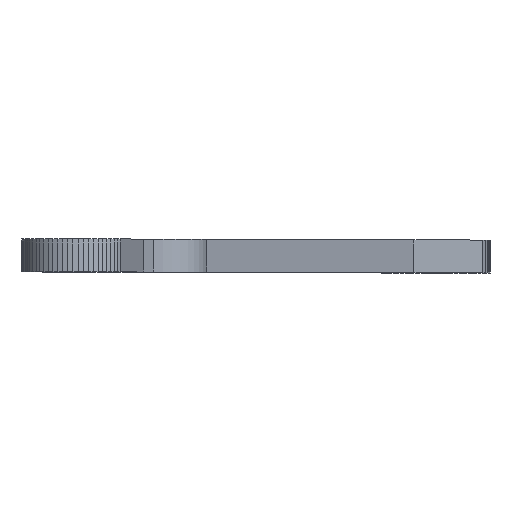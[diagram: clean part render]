
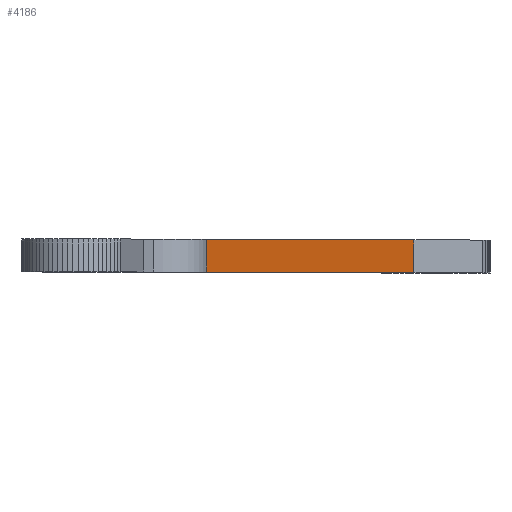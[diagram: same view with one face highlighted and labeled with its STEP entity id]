
A CAD part, top view. The second image highlights one B-rep face of the part: STEP entity #4186.
In plain terms, the highlighted planar face has unit normal (0.866, 0, 0.5).
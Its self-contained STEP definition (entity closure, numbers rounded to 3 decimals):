
#72 = PLANE('',#73);
#73 = AXIS2_PLACEMENT_3D('',#74,#75,#76);
#74 = CARTESIAN_POINT('',(27.5,8.,-47.631));
#75 = DIRECTION('',(0.,-1.,0.));
#76 = DIRECTION('',(0.5,0.,-0.866));
#126 = PLANE('',#127);
#127 = AXIS2_PLACEMENT_3D('',#128,#129,#130);
#128 = CARTESIAN_POINT('',(27.5,13.,-47.631));
#129 = DIRECTION('',(0.,-1.,0.));
#130 = DIRECTION('',(0.5,0.,-0.866));
#2169 = VERTEX_POINT('',#2170);
#2170 = CARTESIAN_POINT('',(51.464,13.,-81.138));
#2184 = PLANE('',#2185);
#2185 = AXIS2_PLACEMENT_3D('',#2186,#2187,#2188);
#2186 = CARTESIAN_POINT('',(61.928,13.,-91.263));
#2187 = DIRECTION('',(-0.695,0.,
    -0.719));
#2188 = DIRECTION('',(-0.719,0.,0.695
    ));
#2196 = EDGE_CURVE('',#2169,#2197,#2199,.T.);
#2197 = VERTEX_POINT('',#2198);
#2198 = CARTESIAN_POINT('',(18.928,13.,-24.785));
#2199 = SURFACE_CURVE('',#2200,(#2204,#2211),.PCURVE_S1.);
#2200 = LINE('',#2201,#2202);
#2201 = CARTESIAN_POINT('',(51.464,13.,-81.138));
#2202 = VECTOR('',#2203,1.);
#2203 = DIRECTION('',(-0.5,0.,0.866));
#2204 = PCURVE('',#126,#2205);
#2205 = DEFINITIONAL_REPRESENTATION('',(#2206),#2210);
#2206 = LINE('',#2207,#2208);
#2207 = CARTESIAN_POINT('',(41.,4.));
#2208 = VECTOR('',#2209,1.);
#2209 = DIRECTION('',(-1.,0.));
#2210 = ( GEOMETRIC_REPRESENTATION_CONTEXT(2) 
PARAMETRIC_REPRESENTATION_CONTEXT() REPRESENTATION_CONTEXT('2D SPACE',''
  ) );
#2211 = PCURVE('',#2212,#2217);
#2212 = PLANE('',#2213);
#2213 = AXIS2_PLACEMENT_3D('',#2214,#2215,#2216);
#2214 = CARTESIAN_POINT('',(51.464,13.,-81.138));
#2215 = DIRECTION('',(-0.866,0.,-0.5));
#2216 = DIRECTION('',(-0.5,0.,0.866));
#2217 = DEFINITIONAL_REPRESENTATION('',(#2218),#2222);
#2218 = LINE('',#2219,#2220);
#2219 = CARTESIAN_POINT('',(0.,0.));
#2220 = VECTOR('',#2221,1.);
#2221 = DIRECTION('',(1.,0.));
#2222 = ( GEOMETRIC_REPRESENTATION_CONTEXT(2) 
PARAMETRIC_REPRESENTATION_CONTEXT() REPRESENTATION_CONTEXT('2D SPACE',''
  ) );
#2241 = CYLINDRICAL_SURFACE('',#2242,8.);
#2242 = AXIS2_PLACEMENT_3D('',#2243,#2244,#2245);
#2243 = CARTESIAN_POINT('',(12.,13.,-20.785));
#2244 = DIRECTION('',(0.,1.,0.));
#2245 = DIRECTION('',(0.5,0.,-0.866));
#3928 = VERTEX_POINT('',#3929);
#3929 = CARTESIAN_POINT('',(51.464,8.,-81.138));
#3950 = EDGE_CURVE('',#3928,#3951,#3953,.T.);
#3951 = VERTEX_POINT('',#3952);
#3952 = CARTESIAN_POINT('',(18.928,8.,-24.785));
#3953 = SURFACE_CURVE('',#3954,(#3958,#3965),.PCURVE_S1.);
#3954 = LINE('',#3955,#3956);
#3955 = CARTESIAN_POINT('',(51.464,8.,-81.138));
#3956 = VECTOR('',#3957,1.);
#3957 = DIRECTION('',(-0.5,0.,0.866));
#3958 = PCURVE('',#72,#3959);
#3959 = DEFINITIONAL_REPRESENTATION('',(#3960),#3964);
#3960 = LINE('',#3961,#3962);
#3961 = CARTESIAN_POINT('',(41.,4.));
#3962 = VECTOR('',#3963,1.);
#3963 = DIRECTION('',(-1.,0.));
#3964 = ( GEOMETRIC_REPRESENTATION_CONTEXT(2) 
PARAMETRIC_REPRESENTATION_CONTEXT() REPRESENTATION_CONTEXT('2D SPACE',''
  ) );
#3965 = PCURVE('',#2212,#3966);
#3966 = DEFINITIONAL_REPRESENTATION('',(#3967),#3971);
#3967 = LINE('',#3968,#3969);
#3968 = CARTESIAN_POINT('',(0.,-5.));
#3969 = VECTOR('',#3970,1.);
#3970 = DIRECTION('',(1.,0.));
#3971 = ( GEOMETRIC_REPRESENTATION_CONTEXT(2) 
PARAMETRIC_REPRESENTATION_CONTEXT() REPRESENTATION_CONTEXT('2D SPACE',''
  ) );
#4166 = EDGE_CURVE('',#3951,#2197,#4167,.T.);
#4167 = SURFACE_CURVE('',#4168,(#4172,#4178),.PCURVE_S1.);
#4168 = LINE('',#4169,#4170);
#4169 = CARTESIAN_POINT('',(18.928,13.,-24.785));
#4170 = VECTOR('',#4171,1.);
#4171 = DIRECTION('',(0.,1.,0.));
#4172 = PCURVE('',#2241,#4173);
#4173 = DEFINITIONAL_REPRESENTATION('',(#4174),#4177);
#4174 = B_SPLINE_CURVE_WITH_KNOTS('',1,(#4175,#4176),.UNSPECIFIED.,.F.,
  .F.,(2,2),(-5.,0.),.PIECEWISE_BEZIER_KNOTS.);
#4175 = CARTESIAN_POINT('',(5.76,-5.));
#4176 = CARTESIAN_POINT('',(5.76,0.));
#4177 = ( GEOMETRIC_REPRESENTATION_CONTEXT(2) 
PARAMETRIC_REPRESENTATION_CONTEXT() REPRESENTATION_CONTEXT('2D SPACE',''
  ) );
#4178 = PCURVE('',#2212,#4179);
#4179 = DEFINITIONAL_REPRESENTATION('',(#4180),#4184);
#4180 = LINE('',#4181,#4182);
#4181 = CARTESIAN_POINT('',(65.072,0.));
#4182 = VECTOR('',#4183,1.);
#4183 = DIRECTION('',(0.,1.));
#4184 = ( GEOMETRIC_REPRESENTATION_CONTEXT(2) 
PARAMETRIC_REPRESENTATION_CONTEXT() REPRESENTATION_CONTEXT('2D SPACE',''
  ) );
#4186 = ADVANCED_FACE('',(#4187),#2212,.F.);
#4187 = FACE_BOUND('',#4188,.F.);
#4188 = EDGE_LOOP('',(#4189,#4190,#4211,#4212));
#4189 = ORIENTED_EDGE('',*,*,#2196,.F.);
#4190 = ORIENTED_EDGE('',*,*,#4191,.T.);
#4191 = EDGE_CURVE('',#2169,#3928,#4192,.T.);
#4192 = SURFACE_CURVE('',#4193,(#4197,#4204),.PCURVE_S1.);
#4193 = LINE('',#4194,#4195);
#4194 = CARTESIAN_POINT('',(51.464,13.,-81.138));
#4195 = VECTOR('',#4196,1.);
#4196 = DIRECTION('',(0.,-1.,0.));
#4197 = PCURVE('',#2212,#4198);
#4198 = DEFINITIONAL_REPRESENTATION('',(#4199),#4203);
#4199 = LINE('',#4200,#4201);
#4200 = CARTESIAN_POINT('',(0.,0.));
#4201 = VECTOR('',#4202,1.);
#4202 = DIRECTION('',(0.,-1.));
#4203 = ( GEOMETRIC_REPRESENTATION_CONTEXT(2) 
PARAMETRIC_REPRESENTATION_CONTEXT() REPRESENTATION_CONTEXT('2D SPACE',''
  ) );
#4204 = PCURVE('',#2184,#4205);
#4205 = DEFINITIONAL_REPRESENTATION('',(#4206),#4210);
#4206 = LINE('',#4207,#4208);
#4207 = CARTESIAN_POINT('',(14.56,0.));
#4208 = VECTOR('',#4209,1.);
#4209 = DIRECTION('',(0.,-1.));
#4210 = ( GEOMETRIC_REPRESENTATION_CONTEXT(2) 
PARAMETRIC_REPRESENTATION_CONTEXT() REPRESENTATION_CONTEXT('2D SPACE',''
  ) );
#4211 = ORIENTED_EDGE('',*,*,#3950,.T.);
#4212 = ORIENTED_EDGE('',*,*,#4166,.T.);
